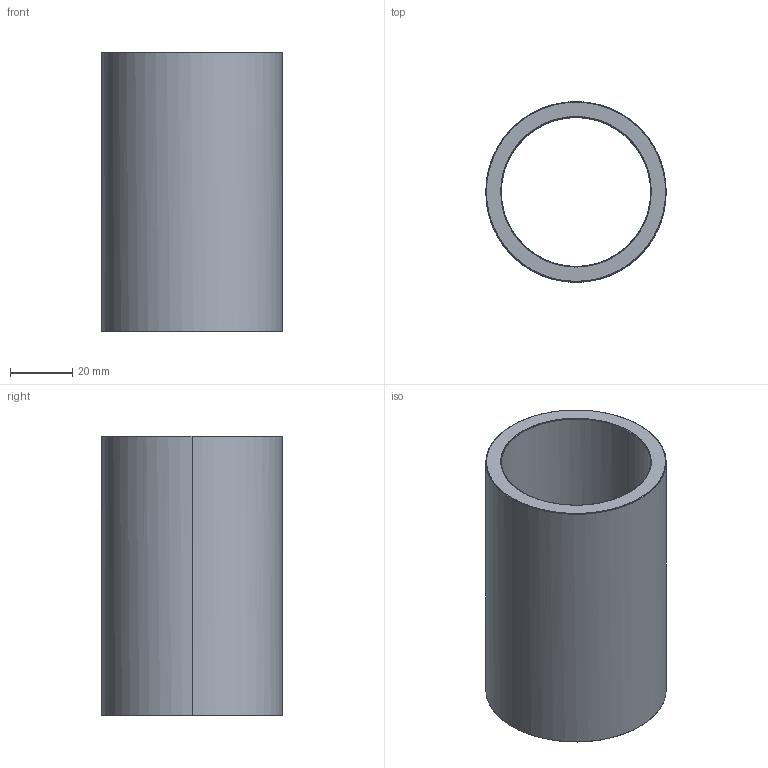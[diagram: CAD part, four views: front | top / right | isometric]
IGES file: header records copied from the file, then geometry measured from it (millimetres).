
Start section: Write IGES format                                    datakit 2008 (c)
Global section: file name: Unknown; native system: DATAKIT Converter; preprocessor: Unknown; author: Unknown; organization: Unknown; date: 950613.180003; units: millimetre
Bounding box: 58 x 57.99 x 90 mm (x, y, z)
Surface area: 31557.8 mm2 (no closed solid volume)
Topology: 0 solids, 0 shells, 14 faces, 56 edges, 56 vertices
Faces by surface type: revolution 12, bspline 2
